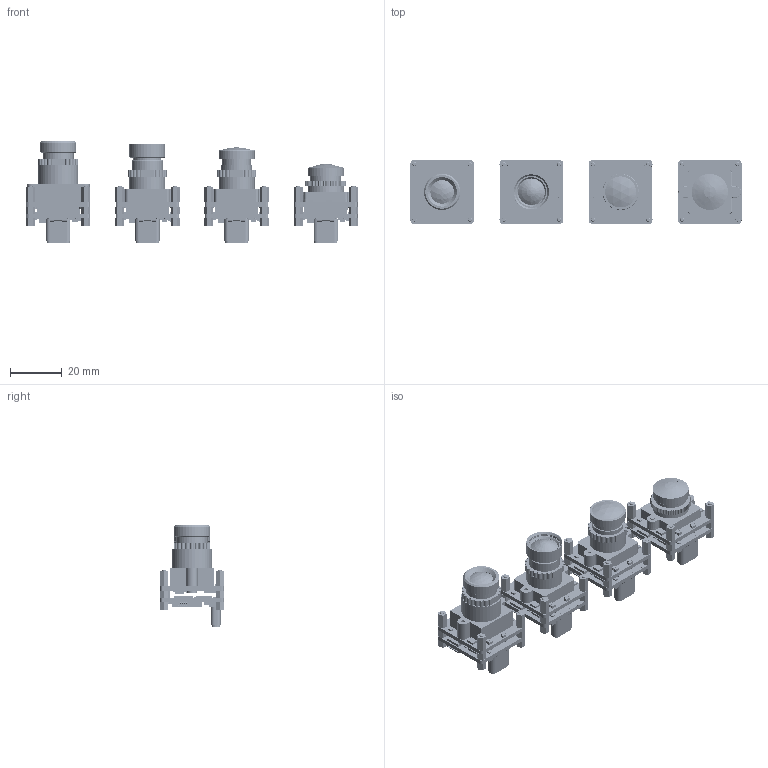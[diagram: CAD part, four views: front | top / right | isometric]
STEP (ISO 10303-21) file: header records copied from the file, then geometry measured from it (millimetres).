
FILE_DESCRIPTION((''),'2;1');
FILE_NAME('UVCI-UVCS-UVCM-AR0234-SERIES_ASM','2026-03-31T14:32:33',('gary.chen'),(''),'CREO PARAMETRIC BY PTC INC, 2024103','CREO PARAMETRIC BY PTC INC, 2024103','');
FILE_SCHEMA(('AUTOMOTIVE_DESIGN { 1 0 10303 214 1 1 1 1 }'));
Length unit declared in the file: millimetre
Products named in the file (213): TN402-TEVM-AR0234-PCBA_8; CONN_DF40C-70DP-04V_11; AR0234CS-D_7; U13_LSM6DSO16ISTR_6; U14_IIS2MDCTR_6; QFN32_D5_5X5XD6_P3-T402D12510_1; USON6P-20-40X57X24-T402D12510_1; L_HMLQ25201B-T402D1251001_2; SC70_6-T402D1251001_2; BGA120_AP1302-T402D1251001_2; SM0402L-T402D1251001_2; TN402-TEVM-AR0234_REVD1-25100_1_ASM; 470100000027-MTV-12BF125_5MP_6; TN402-TEVM-AR0234-ASM_ASM_61_ASM; LP-M12H20144-HOLDER_1; SCREW_M17X8_1; LENS-LOCK-RING_2; 00-TEVM-PCBA-ASM_ASM_159_ASM; TEV-USBCX3-UVC-TN255-PCBA_7; CONN_DF40HC-70DS-04V_11; MSBR-4_1; MSBR-3_1; MSBR-2_1; MSBR-1_1; UT1411C-1940F-7H_ASM_1_ASM; 2147210060_4; X2-DFN1410-8-T255B3260116_1; STP24X50-T255B3260116_1; USON6P-20-40X5-T255B3260116_1; QFN8_D6-D5X1D5X1-T255B3260116_1; L_HMLQ25201B-T255B3260116_1; SOT563_6-T255B3260116_1; DQA_R-PUSON-T255B3260116_1; QFN30_D4_2D5X-T255B3260116_1; DFN6_D4X1D4X1D3-T255B3260116_1; FM40S-T255B3260116_2; TP20T-T255B3260116_1; SOSC4_CX2016DB-T255B3260116_1; SM1206C-T255B3260116_1; SM0402C-T255B3260116_1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
Assembly tree (452 placements, depth 8):
  UVCI-UVCS-UVCM-AR0234-SERIES_ASM
    UVCI-UVCS-UVCM-AR0234-S32_ASM
      00-S-C-MOUNT-ASM_ASM_92_ASM
        00-TEVM-PCBA-ASM_ASM_159_ASM
          TN402-TEVM-AR0234-ASM_ASM_61_ASM
            TN402-TEVM-AR0234-PCBA_8
            CONN_DF40C-70DP-04V_11
            AR0234CS-D_7
            U13_LSM6DSO16ISTR_6
            U14_IIS2MDCTR_6
            TN402-TEVM-AR0234_REVD1-25100_1_ASM
              QFN32_D5_5X5XD6_P3-T402D12510_1
              USON6P-20-40X57X24-T402D12510_1
              L_HMLQ25201B-T402D1251001_2
              SC70_6-T402D1251001_2
              BGA120_AP1302-T402D1251001_2
              SM0402L-T402D1251001_2  x9
            470100000027-MTV-12BF125_5MP_6
          LP-M12H20144-HOLDER_1
          SCREW_M17X8_1  x2
          LENS-LOCK-RING_2
        FUNCTION-PCB-ASM_ASM_5_ASM
          TN255-TEV-USBCX3-UVC-ASM_ASM_16_ASM
            TEV-USBCX3-UVC-TN255-PCBA_7
            CONN_DF40HC-70DS-04V_11
            UT1411C-1940F-7H_ASM_1_ASM
              MSBR-4_1
              MSBR-3_1
              MSBR-2_1
              MSBR-1_1
            2147210060_4
            TN255-TEV-USBCX3-UVC_B3_26011_1_ASM
              X2-DFN1410-8-T255B3260116_1  x2
              STP24X50-T255B3260116_1  x3
              USON6P-20-40X5-T255B3260116_1
              QFN8_D6-D5X1D5X1-T255B3260116_1
              L_HMLQ25201B-T255B3260116_1  x2
              SOT563_6-T255B3260116_1  x2
              DQA_R-PUSON-T255B3260116_1  x2
              QFN30_D4_2D5X-T255B3260116_1
              DFN6_D4X1D4X1D3-T255B3260116_1
              FM40S-T255B3260116_2  x2
              TP20T-T255B3260116_1  x8
              SOSC4_CX2016DB-T255B3260116_1  x3
              SM1206C-T255B3260116_1
              SM0402C-T255B3260116_1  x16
              SM0402L-T255B3260116_1  x6
              DFN8_1D27_6X5X1-T255B3260116_1
              SON8_D65X3X3X1-T255B3260116_1  x2
              BGA121_D8_10X10X1-T255B3260116_
        M1_6X3_NUT_SCREW_2  x12
        M1_6X3_NUT_2  x4
    UVCI-UVCS-UVCM-AR0234-S83_ASM
      00-S-C-MOUNT-ASM_ASM_92_1_ASM
        00-TEVM-PCBA-ASM_ASM_159_1_ASM
          TN402-TEVM-AR0234-ASM_ASM_61_1_ASM
            TN402-TEVM-AR0234-PCBA_8_1
            CONN_DF40C-70DP-04V_11_1
            AR0234CS-D_7_1
            U13_LSM6DSO16ISTR_6_1
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Bounding box: 128.36 x 24.5 x 39.25 mm (x, y, z)
Volume: 22352 mm3; surface area: 39334 mm2
Topology: 412 solids, 418 shells, 7599 faces, 23898 edges, 17807 vertices
Faces by surface type: plane 5194, cylinder 2040, cone 244, torus 68, sphere 43, bspline 8, revolution 2
Entity records: 291601 total; most frequent: CARTESIAN_POINT 38641, DIRECTION 37863, ORIENTED_EDGE 30220, VECTOR 15319, LINE 15319, EDGE_CURVE 15110, PRESENTATION_STYLE_ASSIGNMENT 11586, STYLED_ITEM 11585
